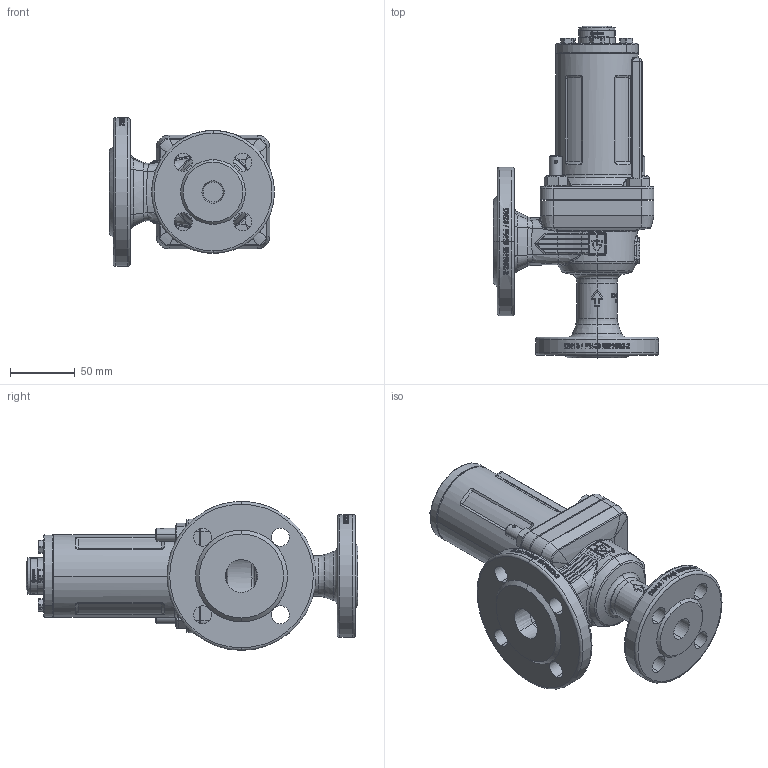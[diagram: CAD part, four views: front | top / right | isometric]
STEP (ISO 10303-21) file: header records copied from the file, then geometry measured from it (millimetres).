
FILE_DESCRIPTION (( 'STEP AP214' ), '1' );
FILE_NAME ('355sGO_15_FLFL_1525.STEP', '2020-01-15T07:43:14', ( '' ), ( '' ), 'SwSTEP 2.0', 'SolidWorks 2018', '' );
FILE_SCHEMA (( 'AUTOMOTIVE_DESIGN' ));
Length unit declared in the file: millimetre
Products named in the file (1): 355sGO_15_FLFL_1525
Bounding box: 127.5 x 256.45 x 115 mm (x, y, z)
Volume: 718182.7 mm3; surface area: 180507.1 mm2
Topology: 15 solids, 15 shells, 1801 faces, 5020 edges, 3423 vertices
Faces by surface type: bspline 585, cylinder 491, plane 488, cone 161, torus 71, sphere 5
Entity records: 147489 total; most frequent: CARTESIAN_POINT 85303, ORIENTED_EDGE 9966, DIRECTION 7010, EDGE_CURVE 4983, VERTEX_POINT 3423, AXIS2_PLACEMENT_3D 2771, EDGE_LOOP 2072, B_SPLINE_CURVE_WITH_KNOTS 1947
